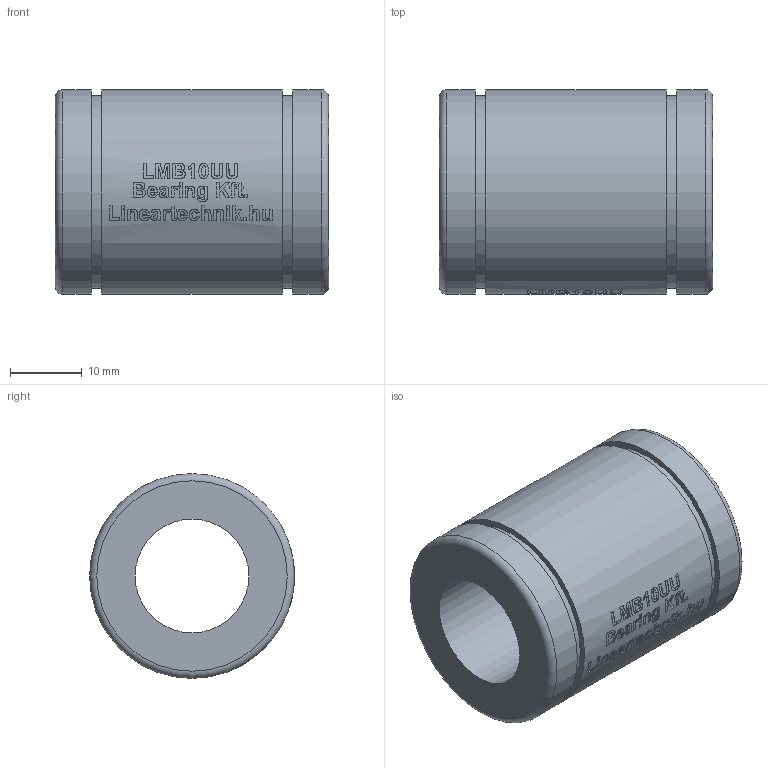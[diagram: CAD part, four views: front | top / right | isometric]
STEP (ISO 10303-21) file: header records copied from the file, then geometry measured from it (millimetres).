
FILE_DESCRIPTION(/* description */ (''),/* implementation_level */ '2;1');
FILE_NAME(/* name */ 'LMB10UU',/* time_stamp */ '2019-05-16T15:31:13+02:00',/* author */ ('VĂ©gh MĂˇtĂ©'),/* organization */ ('Bearing Kft'),/* preprocessor_version */ 'ST-DEVELOPER v16.7',/* originating_system */ 'DEX',/* authorisation */ $);
FILE_SCHEMA (('AUTOMOTIVE_DESIGN {1 0 10303 214 3 1 1}'));
Length unit declared in the file: millimetre
Products named in the file (1): LMB10UU
Bounding box: 38.1 x 28.58 x 28.57 mm (x, y, z)
Volume: 16642.2 mm3; surface area: 6433.3 mm2
Topology: 1 solids, 1 shells, 311 faces, 772 edges, 515 vertices
Faces by surface type: plane 159, bspline 96, cylinder 54, torus 2
Full cylindrical faces by diameter (mm): 15.875 x1, 26.899 x2, 28.575 x3
Entity records: 17004 total; most frequent: CARTESIAN_POINT 10120, ORIENTED_EDGE 1518, DIRECTION 1147, EDGE_CURVE 759, VERTEX_POINT 513, LINE 413, VECTOR 413, EDGE_LOOP 376
